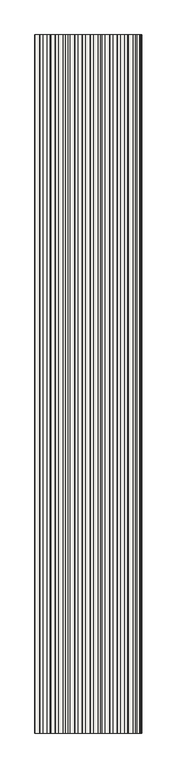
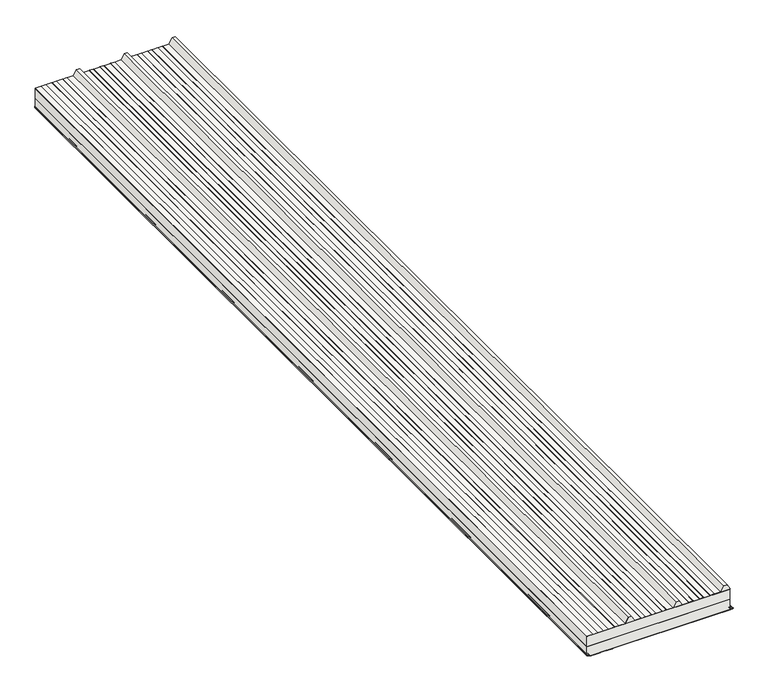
"""IFC4 building model written with IfcOpenShell, lengths in millimetres: covering geometry, Płyta warstwowa dachowa SPR CORE WOOL (pojedynczy arkusz) : -."""

from ifc_helpers import new_model, si_unit, point, frame, frame_2d, origin, place, context, project, spatial, polyline, circle_curve, trimmed, segment, composite_curve, outline, extrude, source, transform, mapped, element, save
from ifc_brep_helpers import plane_surface, cylinder_surface, revolved_surface, advanced_brep


def covering_ad631c73(model_context):
    return source(origin(), model_context, "Body", "SolidModel", [
        extrude(outline(composite_curve([segment(polyline([(-154.4480338, -31.6570556), (-155.0012185, -15.8167119)]), True, "CONTINUOUS"), segment(trimmed(circle_curve(frame_2d((-157.0, -15.8865144)), 2.0), [point((-155.0012185, -15.8167119))], [point((-159.0, -15.8865144))], True, "CARTESIAN"), True, "CONTINUOUS"), segment(polyline([(-159.0, -15.8865144), (-159.0, -35.0), (-160.0, -35.0), (-160.0, -15.8865144)]), True, "CONTINUOUS"), segment(trimmed(circle_curve(frame_2d((-157.0, -15.8865144)), 3.0), [point((-160.0, -15.8865144))], [point((-154.0018277, -15.7818107))], False, "CARTESIAN"), True, "CONTINUOUS"), segment(polyline([(-154.0018277, -15.7818107), (-153.448643, -31.6221543)]), True, "CONTINUOUS"), segment(trimmed(circle_curve(frame_2d((-149.9507754, -31.5)), 3.5), [point((-153.448643, -31.6221543))], [point((-149.9507754, -35.0))], True, "CARTESIAN"), True, "CONTINUOUS"), segment(polyline([(-149.9507754, -35.0), (-139.9507754, -35.0), (-139.9507754, -36.0), (-149.9507754, -36.0)]), True, "CONTINUOUS"), segment(trimmed(circle_curve(frame_2d((-149.9507754, -31.5)), 4.5), [point((-149.9507754, -36.0))], [point((-154.4480338, -31.6570556))], False, "CARTESIAN"), True, "CONTINUOUS")], self_intersect=False)), frame((0.0, -6999.9999824, 0.0), z_axis=(0.0, 1.0, 0.0), x_axis=(0.0, 0.0, 1.0)), (0.0, 0.0, 1.0), 6999.9999824),
        extrude(outline(composite_curve([segment(polyline([(-157.0, -1061.3739939), (-154.2, -1061.3739939)]), True, "CONTINUOUS"), segment(trimmed(circle_curve(frame_2d((-154.2, -1063.3739939)), 2.0), [point((-154.2, -1061.3739939))], [point((-152.2012183, -1063.3041949))], False, "CARTESIAN"), True, "CONTINUOUS"), segment(polyline([(-152.2012183, -1063.3041949), (-151.5931411, -1080.7172487)]), True, "CONTINUOUS"), segment(trimmed(circle_curve(frame_2d((-149.094664, -1080.63)), 2.5), [point((-151.5931411, -1080.7172487))], [point((-149.094664, -1083.13))], True, "CARTESIAN"), True, "CONTINUOUS"), segment(polyline([(-149.094664, -1083.13), (-139.1749818, -1083.13), (-139.1749818, -1084.13), (-149.094664, -1084.13)]), True, "CONTINUOUS"), segment(trimmed(circle_curve(frame_2d((-149.094664, -1080.63)), 3.5), [point((-149.094664, -1084.13))], [point((-152.5925319, -1080.7521482))], False, "CARTESIAN"), True, "CONTINUOUS"), segment(polyline([(-152.5925319, -1080.7521482), (-153.2006092, -1063.3390944)]), True, "CONTINUOUS"), segment(trimmed(circle_curve(frame_2d((-154.2, -1063.3739939)), 1.0), [point((-153.2006092, -1063.3390944))], [point((-154.2, -1062.3739939))], True, "CARTESIAN"), True, "CONTINUOUS"), segment(polyline([(-154.2, -1062.3739939), (-157.0, -1062.3739939)]), True, "CONTINUOUS"), segment(trimmed(circle_curve(frame_2d((-157.0, -1059.3739939)), 3.0), [point((-157.0, -1062.3739939))], [point((-160.0, -1059.3739939))], False, "CARTESIAN"), True, "CONTINUOUS"), segment(polyline([(-160.0, -1059.3739939), (-159.0, -1059.3739939)]), True, "CONTINUOUS"), segment(trimmed(circle_curve(frame_2d((-157.0, -1059.3739939)), 2.0), [point((-159.0, -1059.3739939))], [point((-157.0, -1061.3739939))], True, "CARTESIAN"), True, "CONTINUOUS")], self_intersect=False)), frame((0.0, -6999.9999824, 0.0), z_axis=(0.0, 1.0, 0.0), x_axis=(0.0, 0.0, 1.0)), (0.0, 0.0, 1.0), 6999.9999824),
        extrude(outline(polyline([(-160.0, -1030.0428203), (-160.4, -1029.35), (-160.4, -985.3428203), (-160.0, -984.65), (-160.0, -940.6428203), (-160.4, -939.95), (-160.4, -895.9428203), (-160.0, -895.25), (-160.0, -851.2428203), (-160.4, -850.55), (-160.4, -806.5428203), (-160.0, -805.85), (-160.0, -761.8428203), (-160.4, -761.15), (-160.4, -717.1428203), (-160.0, -716.45), (-160.0, -672.4428203), (-160.4, -671.75), (-160.4, -627.7428203), (-160.0, -627.05), (-160.0, -583.0428203), (-160.4, -582.35), (-160.4, -537.65), (-160.0, -536.9571797), (-160.0, -492.95), (-160.4, -492.2571797), (-160.4, -448.25), (-160.0, -447.5571797), (-160.0, -403.55), (-160.4, -402.8571797), (-160.4, -358.85), (-160.0, -358.1571797), (-160.0, -314.15), (-160.4, -313.4571797), (-160.4, -269.45), (-160.0, -268.7571797), (-160.0, -224.75), (-160.4, -224.0571797), (-160.4, -180.05), (-160.0, -179.3571797), (-160.0, -135.35), (-160.4, -134.6571797), (-160.4, -90.65), (-160.0, -89.9571797), (-160.0, -45.95), (-160.4, -45.2571797), (-160.4, -35.0), (-159.0, -35.0), (-159.0, -1059.3769939), (-160.0, -1059.3769939), (-160.0, -1030.0428203)])), frame((0.0, -6999.9999824, 0.0), z_axis=(0.0, 1.0, 0.0), x_axis=(0.0, 0.0, 1.0)), (0.0, 0.0, 1.0), 6999.9999824),
        extrude(outline(polyline([(-1.0, -33.1332395), (0.0, -33.1332395), (0.0, -34.1332395), (40.0, -57.2443504), (40.0, -79.7110315), (0.0, -102.8221424), (0.0, -148.5756209), (1.0, -150.8678342), (1.0, -181.1627485), (0.0, -183.4549619), (0.0, -226.0380205), (1.0, -228.3302338), (1.0, -258.6251481), (0.0, -260.9173615), (0.0, -303.5004201), (1.0, -305.7926334), (1.0, -336.0875477), (0.0, -338.379761), (0.0, -384.1332395), (40.0, -407.2443504), (40.0, -429.7110315), (0.0, -452.8221424), (0.0, -498.5756209), (1.0, -500.8678342), (1.0, -531.1627485), (0.0, -533.4549619), (0.0, -576.0380205), (1.0, -578.3302338), (1.0, -608.6251481), (0.0, -610.9173615), (0.0, -653.5004201), (1.0, -655.7926334), (1.0, -686.0875477), (0.0, -688.379761), (0.0, -734.1332395), (40.0, -757.2443504), (40.0, -779.7110315), (0.0, -802.8221424), (0.0, -848.5756209), (1.0, -850.8678342), (1.0, -881.1627485), (0.0, -883.4549619), (0.0, -926.0380205), (1.0, -928.3302338), (1.0, -958.6251481), (0.0, -960.9173615), (0.0, -1003.5004201), (1.0, -1005.7926334), (1.0, -1036.0875477), (0.0, -1038.379761), (0.0, -1083.133), (-1.0, -1083.133), (-1.0, -33.1332395)])), frame((0.0, -6999.9999824, 0.0), z_axis=(0.0, 1.0, 0.0), x_axis=(0.0, 0.0, 1.0)), (0.0, 0.0, 1.0), 6999.9999824),
        advanced_brep(
        [(-35.0, -6999.9999824, -159.0), (-15.8865144, -6999.9999824, -159.0), (-15.8167119, -6999.9999824, -155.0012185), (-31.6570556, -6999.9999824, -154.4480338), (-36.0, -6999.9999824, -149.9507754), (-36.0, -6999.9999824, -80.0), (-1083.133, -6999.9999824, -80.0), (-1083.133, -6999.9999824, -149.094664), (-1080.7202487, -6999.9999824, -151.5931411), (-1063.3071949, -6999.9999824, -152.2012183), (-1061.3769939, -6999.9999824, -154.2), (-1061.3769939, -6999.9999824, -157.0), (-1059.3769939, -6999.9999824, -159.0), (-15.8865144, 0.0, -159.0), (-35.0, 0.0, -159.0), (-1059.3769939, 0.0, -159.0), (-1061.3769939, 0.0, -157.0), (-1061.3769939, 0.0, -154.2), (-1063.3071949, 0.0, -152.2012183), (-1080.7202487, 0.0, -151.5931411), (-1083.133, 0.0, -149.094664), (-1083.133, 0.0, -80.0), (-36.0, 0.0, -80.0), (-36.0, 0.0, -149.9507754), (-31.6570556, 0.0, -154.4480338), (-15.8167119, 0.0, -155.0012185)],
        [
            (0, 1),
            (1, 2, circle_curve(frame((-15.8865144, -6999.9999824, -157.0), z_axis=(0.0, -1.0, 0.0), x_axis=(-1.0, 0.0, 0.0)), 2.0)),
            (2, 3),
            (3, 4, circle_curve(frame((-31.5, -6999.9999824, -149.9507754), z_axis=(0.0, 1.0, 0.0), x_axis=(-1.0, 0.0, 0.0)), 4.5)),
            (4, 5),
            (5, 6),
            (6, 7),
            (7, 8, circle_curve(frame((-1080.633, -6999.9999824, -149.094664), z_axis=(0.0, -1.0, 0.0), x_axis=(-1.0, 0.0, 0.0)), 2.5)),
            (8, 9),
            (9, 10, circle_curve(frame((-1063.3769939, -6999.9999824, -154.2), z_axis=(0.0, 1.0, 0.0), x_axis=(-1.0, 0.0, 0.0)), 2.0)),
            (10, 11),
            (11, 12, circle_curve(frame((-1059.3769939, -6999.9999824, -157.0), z_axis=(0.0, -1.0, 0.0), x_axis=(-1.0, 0.0, 0.0)), 2.0)),
            (12, 0),
            (13, 14),
            (14, 15),
            (15, 16, circle_curve(frame((-1059.3769939, 0.0, -157.0), z_axis=(0.0, 1.0, 0.0), x_axis=(-1.0, 0.0, 0.0)), 2.0)),
            (16, 17),
            (17, 18, circle_curve(frame((-1063.3769939, 0.0, -154.2), z_axis=(0.0, -1.0, 0.0), x_axis=(-1.0, 0.0, 0.0)), 2.0)),
            (18, 19),
            (19, 20, circle_curve(frame((-1080.633, 0.0, -149.094664), z_axis=(0.0, 1.0, 0.0), x_axis=(-1.0, 0.0, 0.0)), 2.5)),
            (20, 21),
            (21, 22),
            (22, 23),
            (23, 24, circle_curve(frame((-31.5, 0.0, -149.9507754), z_axis=(0.0, -1.0, 0.0), x_axis=(-1.0, 0.0, 0.0)), 4.5)),
            (24, 25),
            (25, 13, circle_curve(frame((-15.8865144, 0.0, -157.0), z_axis=(0.0, 1.0, 0.0), x_axis=(-1.0, 0.0, 0.0)), 2.0)),
            (5, 22),
            (21, 6),
            (12, 15),
            (13, 1),
            (3, 24),
            (23, 4),
            (2, 25),
            (7, 20),
            (19, 8),
            (11, 16),
            (10, 17),
            (9, 18),
        ],
        [
            plane_surface(frame((-1085.0, -6999.9999824, -80.0), z_axis=(0.0, -1.0, 0.0), x_axis=(-1.0, 0.0, 0.0))),
            plane_surface(frame((-1085.0, 0.0, -80.0), z_axis=(0.0, 1.0, 0.0), x_axis=(1.0, 0.0, 0.0))),
            plane_surface(frame((5.0, -6999.9999824, -80.0), z_axis=(0.0, 0.0, 1.0), x_axis=(0.0, 1.0, 0.0))),
            plane_surface(frame((-1085.0, -6999.9999824, -159.0), z_axis=(0.0, 0.0, -1.0), x_axis=(0.0, 1.0, 0.0))),
            revolved_surface(polyline([(-36.0, -6999.9999824, -149.9507754), (-36.0, 0.0, -149.9507754)]), (-31.5, -6999.9999824, -149.9507754), (0.0, -1.0, 0.0)),
            plane_surface(frame((-31.6570556, -6999.9999824, -154.4480338), z_axis=(0.034901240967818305, 0.0, 0.9993907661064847), x_axis=(0.0, 1.0, 0.0))),
            cylinder_surface(frame((-15.8865144, -6999.9999824, -157.0), z_axis=(0.0, 1.0, 0.0), x_axis=(-1.0, 0.0, 0.0)), 2.0),
            plane_surface(frame((-36.0, -6999.9999824, -1.0), z_axis=(1.0, 0.0, 0.0), x_axis=(0.0, 1.0, 0.0))),
            cylinder_surface(frame((-1080.633, -6999.9999824, -149.094664), z_axis=(0.0, 1.0, 0.0), x_axis=(-1.0, 0.0, 0.0)), 2.5),
            plane_surface(frame((-1083.133, -6999.9999824, -149.094664), z_axis=(-1.0, 0.0, 0.0), x_axis=(0.0, 1.0, 0.0))),
            cylinder_surface(frame((-1059.3769939, -6999.9999824, -157.0), z_axis=(0.0, 1.0, 0.0), x_axis=(-1.0, 0.0, 0.0)), 2.0),
            plane_surface(frame((-1061.3769939, -6999.9999824, -157.0), z_axis=(-1.0, 0.0, 0.0), x_axis=(0.0, 1.0, 0.0))),
            revolved_surface(polyline([(-1065.3769939, -6999.9999824, -154.2), (-1065.3769939, 0.0, -154.2)]), (-1063.3769939, -6999.9999824, -154.2), (0.0, -1.0, 0.0)),
            plane_surface(frame((-1063.3071949, -6999.9999824, -152.2012183), z_axis=(-0.03489949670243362, 0.0, -0.9993908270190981), x_axis=(0.0, 1.0, 0.0))),
        ],
        [
            (0, [[1, 2, 3, 4, 5, 6, 7, 8, 9, 10, 11, 12, 13]]),
            (1, [[14, 15, 16, 17, 18, 19, 20, 21, 22, 23, 24, 25, 26]]),
            (2, [[27, -22, 28, -6]]),
            (3, [[-1, -13, 29, -15, -14, 30]]),
            (4, [[31, -24, 32, -4]]),
            (5, [[-31, -3, 33, -25]]),
            (6, [[-33, -2, -30, -26]]),
            (7, [[-32, -23, -27, -5]]),
            (8, [[34, -20, 35, -8]]),
            (9, [[-34, -7, -28, -21]]),
            (10, [[36, -16, -29, -12]]),
            (11, [[-36, -11, 37, -17]]),
            (12, [[-37, -10, 38, -18]]),
            (13, [[-35, -19, -38, -9]]),
        ],
    ),
        extrude(outline(polyline([(-36.0, 0.0), (-36.0, -6999.9999824), (-1083.133, -6999.9999824), (-1083.133, 0.0), (-36.0, 0.0)])), frame((0.0, 0.0, -80.0), z_axis=(0.0, 0.0, 1.0), x_axis=(1.0, 0.0, 0.0)), (0.0, 0.0, 1.0), 79.0),
    ])


if __name__ == "__main__":
    model = new_model("IFC4")
    model_context = context("Model", 3, world=origin())
    ifc_project = project(units=[si_unit("LENGTHUNIT", "METRE", prefix="MILLI")], contexts=[model_context])
    site = spatial("IfcSite", under=ifc_project)
    building = spatial("IfcBuilding", under=site)
    placement = place(None, origin())
    covering_shape = covering_ad631c73(model_context)
    element("IfcCovering", 1, ObjectType="Płyta warstwowa dachowa SPR CORE WOOL (pojedynczy arkusz) : -", at=placement, inside=building, context=model_context, shape_type="MappedRepresentation", body=[
        mapped(covering_shape, transform((0.0, 0.0, 0.0), x_axis=(1.0, 0.0, 0.0), y_axis=(0.0, 1.0, 0.0), z_axis=(0.0, 0.0, 1.0))),
    ])
    save(model, "model.ifc")
